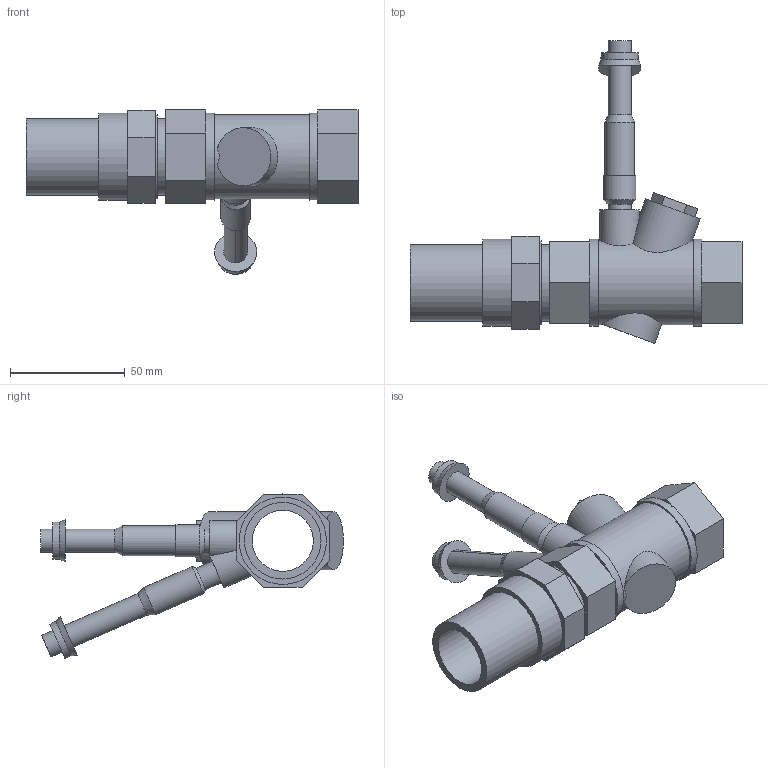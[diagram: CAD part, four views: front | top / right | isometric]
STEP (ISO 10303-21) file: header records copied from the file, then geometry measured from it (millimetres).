
FILE_DESCRIPTION(/* description */ ('VIC VALVE AUTO BALANCING SERIES 76K (SWTxFPT)','CAx-IF Rec.Pracs.---Representation and Presentation of Product Manufacturing Information (PMI)---4.0---2014-10-13'),/* implementation_level */ '2;1');
FILE_NAME(/* name */ 'C:\Users\kkamble\Desktop\KIRAN\2022\76B & 76K\76K\STEP\Victaulic_IPS_Valve Auto Balancing_Series 76K (SWTxFPT)\Victaulic_IPS_Valve Auto Balancing_Series 76K (SWTxFPT)_1 (25).stp',/* time_stamp */ '2022-03-04T13:34:08+05:00',/* author */ ('kkamble'),/* organization */ ('Victaulic'),/* preprocessor_version */ 'ST-DEVELOPER v17.2',/* originating_system */ 'Autodesk Inventor 2019',/* authorisation */ '');
FILE_SCHEMA (('AP242_MANAGED_MODEL_BASED_3D_ENGINEERING_MIM_LF { 1 0 10303 442 1 1 4 }'));
Length unit declared in the file: inch
Products named in the file (1): 76K-01.0
Bounding box: 144.78 x 132.06 x 71.78 mm (x, y, z)
Volume: 85999 mm3; surface area: 42652 mm2
Topology: 2 solids, 2 shells, 109 faces, 269 edges, 176 vertices
Faces by surface type: plane 72, cylinder 25, cone 12
Full cylindrical faces by diameter (mm): 10.16 x4, 12.954 x2, 14.122 x1, 16.256 x1, 25.4 x1, 26.645 x1, 33.401 x3, 36.576 x1, 38.1 x3
Entity records: 3655 total; most frequent: CARTESIAN_POINT 737, DIRECTION 625, ORIENTED_EDGE 538, EDGE_CURVE 269, AXIS2_PLACEMENT_3D 244, VERTEX_POINT 176, LINE 137, VECTOR 137
